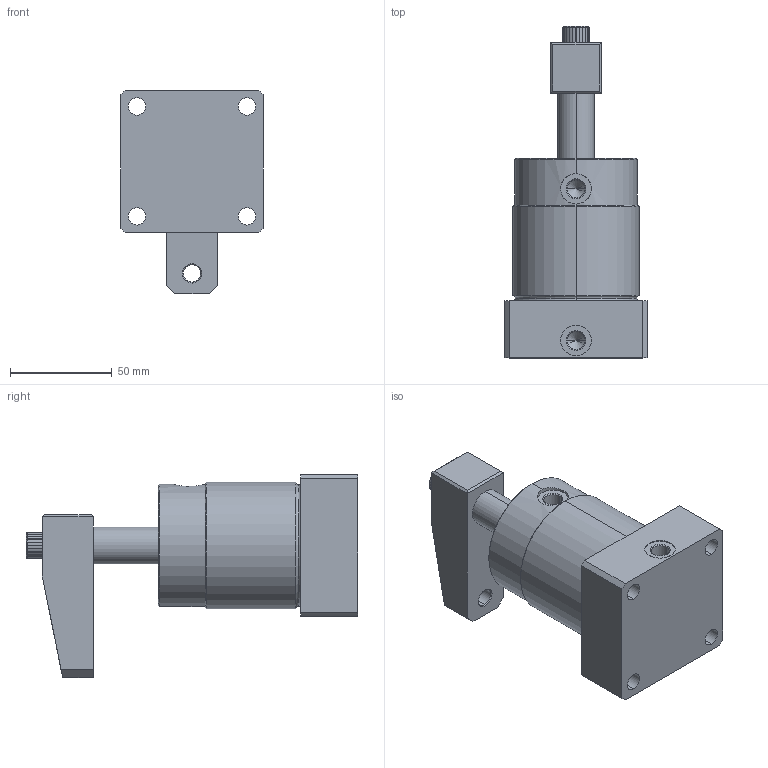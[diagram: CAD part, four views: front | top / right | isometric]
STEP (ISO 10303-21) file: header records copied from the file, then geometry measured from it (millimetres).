
FILE_DESCRIPTION (( 'STEP AP203' ), '1' );
FILE_NAME ('4180 526 529.STEP', '2016-01-28T11:41:08', ( '' ), ( '' ), 'SwSTEP 2.0', 'SolidWorks 2015', '' );
FILE_SCHEMA (( 'CONFIG_CONTROL_DESIGN' ));
Length unit declared in the file: millimetre
Products named in the file (1): 4180 526 529
Bounding box: 70 x 163 x 100 mm (x, y, z)
Volume: 389148.4 mm3; surface area: 46326.6 mm2
Topology: 2 solids, 2 shells, 155 faces, 406 edges, 257 vertices
Faces by surface type: plane 73, cylinder 54, cone 22, torus 4, bspline 2
Entity records: 5744 total; most frequent: CARTESIAN_POINT 1874, ORIENTED_EDGE 800, DIRECTION 778, EDGE_CURVE 400, AXIS2_PLACEMENT_3D 282, VERTEX_POINT 257, LINE 214, VECTOR 214
